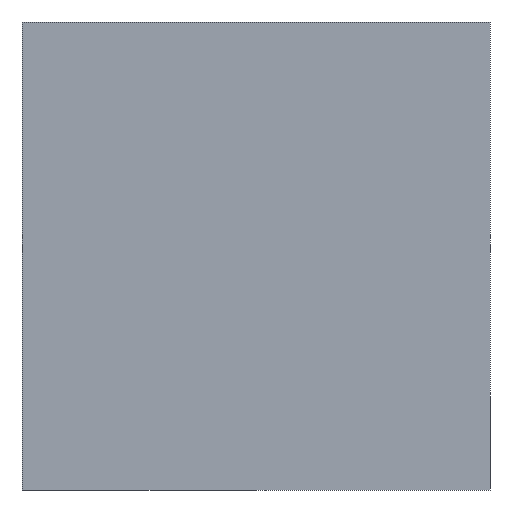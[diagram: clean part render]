
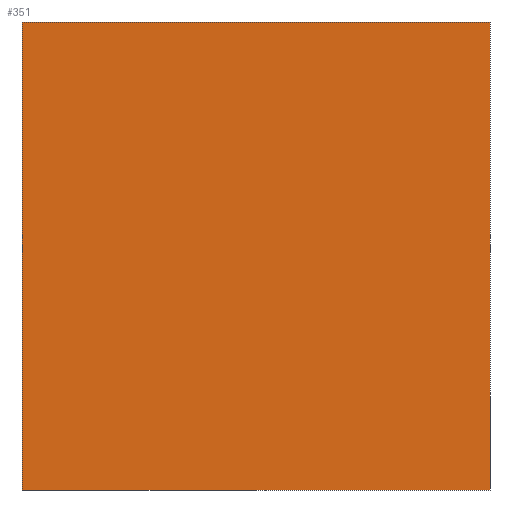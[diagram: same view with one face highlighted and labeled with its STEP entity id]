
A CAD part, left-side view. The second image highlights one B-rep face of the part: STEP entity #351.
In plain terms, the highlighted planar face has unit normal (-1, 0, 0).
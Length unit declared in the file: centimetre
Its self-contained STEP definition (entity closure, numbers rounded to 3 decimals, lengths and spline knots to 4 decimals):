
#3 = CARTESIAN_POINT ( 'NONE',  ( 0., 0., 0. ) ) ;
#5 = CARTESIAN_POINT ( 'NONE',  ( 0., 1000., 1000. ) ) ;
#44 = CARTESIAN_POINT ( 'NONE',  ( 0., 1000., 1000. ) ) ;
#54 = LINE ( 'NONE', #189, #160 ) ;
#56 = VERTEX_POINT ( 'NONE', #125 ) ;
#73 = LINE ( 'NONE', #425, #317 ) ;
#97 = VECTOR ( 'NONE', #192, 100. ) ;
#124 = DIRECTION ( 'NONE',  ( 0., -1., 0. ) ) ;
#125 = CARTESIAN_POINT ( 'NONE',  ( 0., 0., 1000. ) ) ;
#152 = PLANE ( 'NONE',  #250 ) ;
#154 = DIRECTION ( 'NONE',  ( 0., -1., 0. ) ) ;
#160 = VECTOR ( 'NONE', #124, 100. ) ;
#180 = DIRECTION ( 'NONE',  ( 0., 0., -1. ) ) ;
#189 = CARTESIAN_POINT ( 'NONE',  ( 0., 1000., 0. ) ) ;
#192 = DIRECTION ( 'NONE',  ( 0., 0., -1. ) ) ;
#203 = CARTESIAN_POINT ( 'NONE',  ( 0., 1000., 0. ) ) ;
#240 = ORIENTED_EDGE ( 'NONE', *, *, #423, .T. ) ;
#244 = LINE ( 'NONE', #353, #97 ) ;
#250 = AXIS2_PLACEMENT_3D ( 'NONE', #503, #466, #467 ) ;
#276 = VECTOR ( 'NONE', #154, 100. ) ;
#304 = FACE_OUTER_BOUND ( 'NONE', #427, .T. ) ;
#317 = VECTOR ( 'NONE', #180, 100. ) ;
#346 = ORIENTED_EDGE ( 'NONE', *, *, #364, .F. ) ;
#351 = ADVANCED_FACE ( 'NONE', ( #304 ), #152, .F. ) ;
#353 = CARTESIAN_POINT ( 'NONE',  ( 0., 1000., 1000. ) ) ;
#356 = LINE ( 'NONE', #44, #276 ) ;
#364 = EDGE_CURVE ( 'NONE', #56, #509, #73, .T. ) ;
#367 = ORIENTED_EDGE ( 'NONE', *, *, #438, .F. ) ;
#423 = EDGE_CURVE ( 'NONE', #490, #509, #54, .T. ) ;
#425 = CARTESIAN_POINT ( 'NONE',  ( 0., 0., 1000. ) ) ;
#426 = ORIENTED_EDGE ( 'NONE', *, *, #433, .T. ) ;
#427 = EDGE_LOOP ( 'NONE', ( #240, #346, #367, #426 ) ) ;
#433 = EDGE_CURVE ( 'NONE', #485, #490, #244, .T. ) ;
#438 = EDGE_CURVE ( 'NONE', #485, #56, #356, .T. ) ;
#466 = DIRECTION ( 'NONE',  ( 1., 0., 0. ) ) ;
#467 = DIRECTION ( 'NONE',  ( 0., 0., -1. ) ) ;
#485 = VERTEX_POINT ( 'NONE', #5 ) ;
#490 = VERTEX_POINT ( 'NONE', #203 ) ;
#503 = CARTESIAN_POINT ( 'NONE',  ( 0., 1000., 1000. ) ) ;
#509 = VERTEX_POINT ( 'NONE', #3 ) ;
